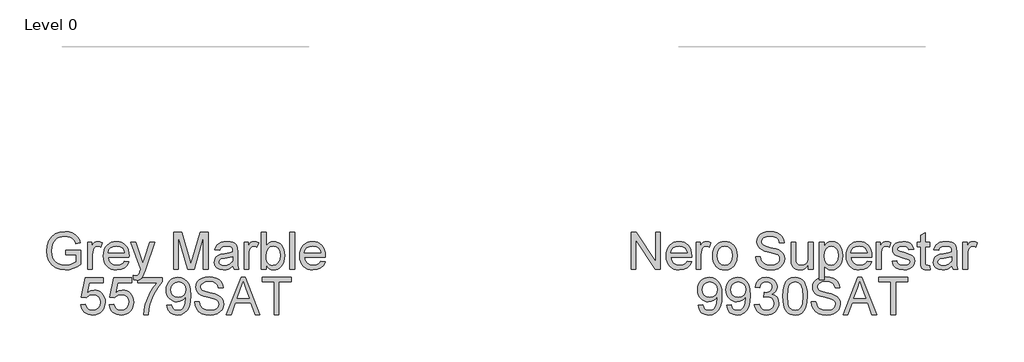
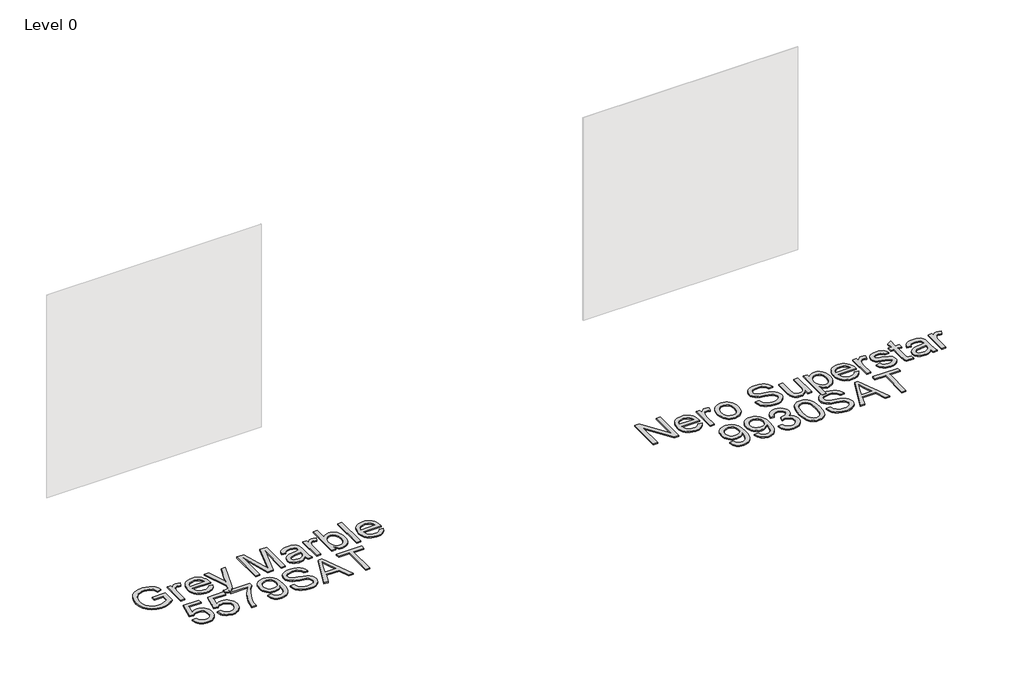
# One storey, part 7 of 9: 2 proxies.
"""IFC4 building model written with IfcOpenShell, lengths in millimetres."""

from ifc_helpers import new_model, si_unit, origin, origin_with_axes, place, context, project, spatial, polyline, outline, extrude, element, save

model = new_model("IFC4")

# Units and contexts
model_context = context("Model", 3, world=origin())
ifc_project = project(units=[si_unit("LENGTHUNIT", "METRE", prefix="MILLI")], contexts=[model_context])

# Site, building, storey
site = spatial("IfcSite", under=ifc_project)
building = spatial("IfcBuilding", under=site)
storey = spatial("IfcBuildingStorey", under=building, Name="Level 0", Elevation=0.0)

# Proxies
placement = place(None, origin())
element("IfcBuildingElementProxy", 1, Name="300mm Arial", ObjectType="300mm Arial", at=placement, inside=storey, context=model_context, shape_type="SweptSolid", body=[
    extrude(outline(polyline([(-420.6893012, -6875.1382555), (-420.6893012, -6837.4671392), (-298.2581732, -6837.4671392), (-298.2581732, -6950.1126061), (-328.0106296, -6970.8059684), (-358.701185, -6985.6500069), (-390.2562631, -6994.5895394), (-422.6022876, -6997.5693835), (-464.8627318, -6992.8329028), (-503.0580799, -6978.6234608), (-534.787902, -6955.437698), (-557.651768, -6923.7722553), (-571.474934, -6885.7884393), (-576.082656, -6843.6475567), (-571.4933281, -6801.2031715), (-557.7253444, -6761.7202364), (-535.348922, -6728.6016598), (-504.9342781, -6705.2503502), (-467.8885612, -6691.399593), (-425.6189199, -6686.782674), (-394.5880736, -6689.4590155), (-366.6842243, -6697.4880401), (-343.1857619, -6710.2903335), (-325.3710762, -6727.2864817), (-312.1917038, -6749.295022), (-302.5991807, -6777.134492), (-337.3272411, -6786.9201531), (-345.0803541, -6767.0637224), (-354.5073303, -6752.0817281), (-366.9785299, -6740.7877509), (-383.8643135, -6731.9953712), (-403.9966557, -6726.3391855), (-426.2075311, -6724.4537903), (-452.2075911, -6726.4863383), (-474.4368607, -6732.5839824), (-492.8125663, -6741.9833674), (-507.2519347, -6753.9211381), (-526.6393158, -6782.9470275), (-535.4684837, -6811.3843058), (-538.4115396, -6842.1024524), (-534.8706754, -6878.1272967), (-524.2480828, -6907.7693885), (-506.8656586, -6930.8171955), (-483.0452994, -6947.0591856), (-455.1690412, -6956.6884968), (-425.6189199, -6959.8982672), (-399.5268894, -6957.4794431), (-374.0786524, -6950.2229707), (-351.9781415, -6940.2257775), (-335.9292895, -6929.5847908), (-335.9292895, -6875.1382555), (-420.6893012, -6875.1382555)])), origin_with_axes(), (0.0, 0.0, 1.0), 10.0),
    extrude(outline(polyline([(-241.7514987, -6992.860494), (-241.7514987, -6771.5426857), (-208.789272, -6771.5426857), (-208.789272, -6804.2841833), (-196.6123779, -6785.3014723), (-185.3919771, -6774.1178596), (-174.134788, -6768.654812), (-161.8475294, -6766.8337961), (-143.0855476, -6769.7400639), (-124.0292603, -6778.4588672), (-136.6108245, -6812.2304343), (-149.8545763, -6806.4362929), (-163.0983282, -6804.5049125), (-174.3463202, -6806.3627165), (-184.3986957, -6811.9361288), (-192.5196907, -6820.8020848), (-197.9735413, -6832.5375205), (-202.5536721, -6853.5803706), (-204.0803824, -6876.5362071), (-204.0803824, -6992.860494), (-241.7514987, -6992.860494)])), origin_with_axes(), (0.0, 0.0, 1.0), 10.0),
    extrude(outline(polyline([(54.4670838, -6926.9360404), (91.4024361, -6931.64493), (78.0943049, -6959.4752029), (56.8583167, -6980.2789297), (28.1727182, -6993.2467701), (-7.4842442, -6997.5693835), (-30.8585465, -6995.7046817), (-51.6852659, -6990.1105761), (-69.9644026, -6980.7870668), (-85.6959564, -6967.7341537), (-98.3464985, -6951.3151204), (-107.3826, -6931.8932503), (-112.8042609, -6909.4685435), (-114.6114812, -6884.0409998), (-112.7858668, -6857.7512327), (-107.3090236, -6834.5792656), (-98.1809516, -6814.5250983), (-85.4016508, -6797.5887309), (-69.7114837, -6784.133447), (-51.8508128, -6774.5225298), (-31.8196382, -6768.7559796), (-9.6179598, -6766.8337961), (11.868648, -6768.751381), (31.2997151, -6774.5041357), (48.6752416, -6784.0920602), (63.9952275, -6797.5151545), (76.500916, -6814.4147337), (85.4335507, -6834.4321128), (90.7931315, -6857.5672917), (92.5796585, -6883.8202706), (92.3589293, -6893.9738137), (-76.9403649, -6893.9738137), (-70.4196565, -6922.1719686), (-55.2721154, -6942.902119), (-33.4107278, -6955.6492302), (-6.7484802, -6959.8982672), (13.3010885, -6957.9300985), (30.1868721, -6952.0255925), (43.9088705, -6941.8168672), (54.4670838, -6926.9360404)]), holes=[polyline([(-76.9403649, -6856.3026974), (54.9085422, -6856.3026974), (49.8133765, -6836.4002814), (39.8253804, -6822.1632482), (17.8628253, -6808.9194964), (-9.7651126, -6804.5049125), (-35.1581673, -6808.0273826), (-56.1550322, -6818.5947929), (-70.7507503, -6835.0667092), (-76.9403649, -6856.3026974)])]), origin_with_axes(), (0.0, 0.0, 1.0), 10.0),
    extrude(outline(polyline([(130.2507748, -7077.6205057), (125.5418852, -7041.3473409), (144.671749, -7044.6582789), (162.550814, -7040.5012124), (173.5136974, -7028.9129295), (183.8143933, -7001.1746271), (186.7574492, -6992.0511536), (106.7063271, -6771.5426857), (146.3640062, -6771.5426857), (188.8911648, -6894.4888485), (203.680021, -6943.637883), (218.4688772, -6900.1542312), (262.0996819, -6771.5426857), (301.4630553, -6771.5426857), (224.4285656, -6998.1579947), (204.415785, -7047.3070293), (194.1702714, -7062.9971964), (182.5635945, -7073.8681093), (169.0991135, -7080.2140737), (153.2801877, -7082.3293952), (130.2507748, -7077.6205057)])), origin_with_axes(), (0.0, 0.0, 1.0), 10.0),
    extrude(outline(polyline([(455.1641529, -6992.860494), (455.1641529, -6691.4915635), (519.7642313, -6691.4915635), (581.5684065, -6903.9066275), (594.0763943, -6948.2731962), (607.5408753, -6900.2278076), (668.1678281, -6691.4915635), (732.9886357, -6691.4915635), (732.9886357, -6992.860494), (695.3175194, -6992.860494), (695.3175194, -6729.1626798), (619.6074048, -6992.860494), (568.6189602, -6992.860494), (492.8352692, -6729.1626798), (492.8352692, -6992.860494), (455.1641529, -6992.860494)])), origin_with_axes(), (0.0, 0.0, 1.0), 10.0),
    extrude(outline(polyline([(935.4708858, -6964.6071568), (917.4722592, -6980.0398064), (898.9402037, -6990.1381672), (879.451655, -6995.7115794), (858.5835488, -6997.5693835), (827.1020471, -6993.0996173), (803.8794962, -6979.6903186), (789.5596895, -6959.3280501), (784.7864206, -6933.9993748), (786.5890424, -6918.3827841), (791.9969077, -6904.2009331), (800.338632, -6892.0608273), (810.9428305, -6882.5694718), (837.3199695, -6870.2086368), (869.9143143, -6864.5432541), (908.4315592, -6858.5835657), (935.2501566, -6851.5938078), (935.4708858, -6843.2060983), (932.8773178, -6826.3938912), (925.0966136, -6815.3942195), (907.6957952, -6807.2272392), (883.4523717, -6804.5049125), (861.01157, -6806.3167313), (845.339797, -6811.7521878), (834.6528251, -6821.8045633), (827.1664265, -6837.4671392), (789.4953101, -6832.7582497), (796.0344126, -6812.156858), (805.7924825, -6795.9700502), (819.6800278, -6783.590821), (838.6075565, -6774.4121652), (861.756531, -6768.7283884), (888.308414, -6766.8337961), (913.7750452, -6768.5076592), (933.9625696, -6773.5292485), (949.1836872, -6781.0800264), (959.7510975, -6790.3414556), (966.7592495, -6801.7917827), (971.3025922, -6815.9092543), (973.1420021, -6848.8714811), (973.1420021, -6895.7396473), (975.0549885, -6961.1858542), (982.5597812, -6992.860494), (944.8886649, -6992.860494), (935.4708858, -6964.6071568)]), holes=[polyline([(935.4708858, -6889.2649241), (874.6967802, -6900.8164188), (842.2863765, -6906.9232599), (827.6078848, -6916.8560738), (822.4575369, -6931.3506244), (825.2626371, -6942.5526311), (833.6779378, -6951.7312869), (847.5194978, -6957.8565221), (866.6033763, -6959.8982672), (886.8368861, -6957.64499), (904.715951, -6950.8851583), (919.2105016, -6940.9247533), (929.2904683, -6929.069756), (933.7602346, -6916.8560738), (935.2501566, -6899.933502), (935.4708858, -6889.2649241)])]), origin_with_axes(), (0.0, 0.0, 1.0), 10.0),
    extrude(outline(polyline([(1024.9397871, -6992.860494), (1024.9397871, -6771.5426857), (1057.9020138, -6771.5426857), (1057.9020138, -6804.2841833), (1070.0789079, -6785.3014723), (1081.2993087, -6774.1178596), (1092.5564978, -6768.654812), (1104.8437564, -6766.8337961), (1123.6057382, -6769.7400639), (1142.6620255, -6778.4588672), (1130.0804613, -6812.2304343), (1116.8367095, -6806.4362929), (1103.5929576, -6804.5049125), (1092.3449656, -6806.3627165), (1082.2925901, -6811.9361288), (1074.1715951, -6820.8020848), (1068.7177445, -6832.5375205), (1064.1376136, -6853.5803706), (1062.6109034, -6876.5362071), (1062.6109034, -6992.860494), (1024.9397871, -6992.860494)])), origin_with_axes(), (0.0, 0.0, 1.0), 10.0),
    extrude(outline(polyline([(1203.8775895, -6992.860494), (1166.2064732, -6992.860494), (1166.2064732, -6691.4915635), (1203.8775895, -6691.4915635), (1203.8775895, -6803.2541137), (1216.2660157, -6787.3202248), (1230.2547286, -6775.9388755), (1245.8437281, -6769.110066), (1263.0330143, -6766.8337961), (1282.4387896, -6768.8847383), (1300.777707, -6775.0375646), (1317.001303, -6784.9059992), (1330.0611139, -6798.1037657), (1340.2974304, -6814.5021057), (1348.0505434, -6833.9722603), (1352.9341769, -6855.7048891), (1354.5620547, -6878.8906519), (1352.8766953, -6905.64487), (1347.8206172, -6929.1801206), (1339.3938202, -6949.4964038), (1327.5963045, -6966.5937195), (1313.4351469, -6980.1455725), (1297.9174245, -6989.8254675), (1281.0431373, -6995.6334045), (1262.8122851, -6997.5693835), (1245.0573803, -6995.0723845), (1229.3166295, -6987.5813874), (1215.5900325, -6975.0963921), (1203.8775895, -6957.6173988), (1203.8775895, -6992.860494)]), holes=[polyline([(1203.8775895, -6880.6564855), (1206.4527635, -6912.0736078), (1214.1782854, -6933.3371872), (1223.3063574, -6944.9576597), (1233.9151544, -6953.2579972), (1246.0046765, -6958.2381997), (1259.5749236, -6959.8982672), (1281.3167495, -6955.0054367), (1299.8947903, -6940.3269451), (1312.6419014, -6915.9547629), (1316.8909384, -6881.9808606), (1312.8166453, -6847.5103177), (1300.593766, -6823.414047), (1282.5951394, -6809.2321961), (1261.1936044, -6804.5049125), (1239.4517784, -6809.397743), (1220.8737377, -6824.0762346), (1208.1266266, -6848.0069584), (1203.8775895, -6880.6564855)])]), origin_with_axes(), (0.0, 0.0, 1.0), 10.0),
    extrude(outline(polyline([(1396.9420606, -6992.860494), (1396.9420606, -6691.4915635), (1434.6131769, -6691.4915635), (1434.6131769, -6992.860494), (1396.9420606, -6992.860494)])), origin_with_axes(), (0.0, 0.0, 1.0), 10.0),
    extrude(outline(polyline([(1646.0717477, -6926.9360404), (1683.0071, -6931.64493), (1669.6989689, -6959.4752029), (1648.4629807, -6980.2789297), (1619.7773821, -6993.2467701), (1584.1204197, -6997.5693835), (1560.7461175, -6995.7046817), (1539.919398, -6990.1105761), (1521.6402614, -6980.7870668), (1505.9087076, -6967.7341537), (1493.2581654, -6951.3151204), (1484.2220639, -6931.8932503), (1478.800403, -6909.4685435), (1476.9931827, -6884.0409998), (1478.8187971, -6857.7512327), (1484.2956403, -6834.5792656), (1493.4237123, -6814.5250983), (1506.2030131, -6797.5887309), (1521.8931802, -6784.133447), (1539.7538511, -6774.5225298), (1559.7850257, -6768.7559796), (1581.9867042, -6766.8337961), (1603.4733119, -6768.751381), (1622.9043791, -6774.5041357), (1640.2799056, -6784.0920602), (1655.5998914, -6797.5151545), (1668.10558, -6814.4147337), (1677.0382147, -6834.4321128), (1682.3977955, -6857.5672917), (1684.1843224, -6883.8202706), (1683.9635932, -6893.9738137), (1514.664299, -6893.9738137), (1521.1850074, -6922.1719686), (1536.3325486, -6942.902119), (1558.1939361, -6955.6492302), (1584.8561837, -6959.8982672), (1604.9057525, -6957.9300985), (1621.791536, -6952.0255925), (1635.5135345, -6941.8168672), (1646.0717477, -6926.9360404)]), holes=[polyline([(1514.664299, -6856.3026974), (1646.5132061, -6856.3026974), (1641.4180405, -6836.4002814), (1631.4300443, -6822.1632482), (1609.4674892, -6808.9194964), (1581.8395514, -6804.5049125), (1556.4464966, -6808.0273826), (1535.4496318, -6818.5947929), (1520.8539136, -6835.0667092), (1514.664299, -6856.3026974)])]), origin_with_axes(), (0.0, 0.0, 1.0), 10.0),
    extrude(outline(polyline([(-298.2581732, -7278.7338254), (-260.5870569, -7274.0249358), (-253.6708754, -7296.6404815), (-241.6043459, -7312.8364863), (-224.4426509, -7322.5761621), (-202.2409725, -7325.8227207), (-175.238434, -7321.3069693), (-155.0049243, -7307.7597148), (-142.3681777, -7286.7444558), (-138.1559289, -7259.8246908), (-142.1014633, -7234.4776213), (-153.9380665, -7215.0902402), (-173.757709, -7202.7845875), (-201.6523613, -7198.6827032), (-219.9268994, -7200.3197781), (-234.7249526, -7205.2310027), (-255.8781674, -7222.2271509), (-293.5492837, -7217.5182614), (-260.5870569, -7062.1249066), (-114.6114812, -7062.1249066), (-114.6114812, -7099.7960229), (-230.1264277, -7099.7960229), (-246.3132355, -7182.790201), (-219.4026675, -7166.4562404), (-191.2045126, -7161.0115869), (-172.8563981, -7162.6992456), (-155.9982057, -7167.7622215), (-140.6299353, -7176.2005148), (-126.751587, -7188.0141254), (-115.2598732, -7202.4810848), (-107.0515062, -7218.8794248), (-102.126486, -7237.2091452), (-100.4848126, -7257.470246), (-106.3893186, -7295.1413624), (-113.7699511, -7311.9351754), (-124.1028367, -7327.3678251), (-139.7562156, -7343.1729553), (-158.0215566, -7354.4623341), (-178.8988599, -7361.2359613), (-202.3881253, -7363.4938371), (-239.3878569, -7357.6904986), (-255.0665277, -7350.4363255), (-268.8644018, -7340.2804832), (-280.3446193, -7327.7288093), (-289.0703204, -7313.2871418), (-298.2581732, -7278.7338254)])), origin_with_axes(), (0.0, 0.0, 1.0), 10.0),
    extrude(outline(polyline([(-67.5225858, -7278.7338254), (-29.8514695, -7274.0249358), (-22.935288, -7296.6404815), (-10.8687586, -7312.8364863), (6.2929365, -7322.5761621), (28.4946149, -7325.8227207), (55.4971534, -7321.3069693), (75.7306631, -7307.7597148), (88.3674096, -7286.7444558), (92.5796585, -7259.8246908), (88.6341241, -7234.4776213), (76.7975209, -7215.0902402), (56.9778784, -7202.7845875), (29.0832261, -7198.6827032), (10.808688, -7200.3197781), (-3.9893653, -7205.2310027), (-25.14258, -7222.2271509), (-62.8136963, -7217.5182614), (-29.8514695, -7062.1249066), (116.1241062, -7062.1249066), (116.1241062, -7099.7960229), (0.6091597, -7099.7960229), (-15.5776481, -7182.790201), (11.3329198, -7166.4562404), (39.5310748, -7161.0115869), (57.8791893, -7162.6992456), (74.7373817, -7167.7622215), (90.1056521, -7176.2005148), (103.9840003, -7188.0141254), (115.4757142, -7202.4810848), (123.6840812, -7218.8794248), (128.6091014, -7237.2091452), (130.2507748, -7257.470246), (124.3462688, -7295.1413624), (116.9656362, -7311.9351754), (106.6327507, -7327.3678251), (90.9793718, -7343.1729553), (72.7140307, -7354.4623341), (51.8367275, -7361.2359613), (28.3474621, -7363.4938371), (-8.6522695, -7357.6904986), (-24.3309403, -7350.4363255), (-38.1288144, -7340.2804832), (-49.6090319, -7327.7288093), (-58.334733, -7313.2871418), (-67.5225858, -7278.7338254)])), origin_with_axes(), (0.0, 0.0, 1.0), 10.0),
    extrude(outline(polyline([(163.2130016, -7099.7960229), (163.2130016, -7062.1249066), (360.9863622, -7062.1249066), (360.9863622, -7092.5855358), (332.7974043, -7128.2608923), (304.8843579, -7173.6299393), (280.2638554, -7224.5540045), (261.9525291, -7276.8944154), (252.9762084, -7316.0554538), (247.9730132, -7358.7849475), (210.3018969, -7358.7849475), (214.37619, -7319.9550029), (225.2746941, -7273.8042066), (242.7031037, -7224.8850983), (266.367113, -7177.7502177), (293.9950508, -7135.1402856), (323.3152459, -7099.7960229), (163.2130016, -7099.7960229)])), origin_with_axes(), (0.0, 0.0, 1.0), 10.0),
    extrude(outline(polyline([(398.6574785, -7283.4427149), (436.3285948, -7278.7338254), (442.7665297, -7300.1169663), (453.2511666, -7314.6758963), (467.524988, -7323.0360146), (485.3304765, -7325.8227207), (501.3057522, -7324.029296), (515.8278939, -7318.6490218), (527.8944234, -7310.2705094), (536.5028621, -7299.4823699), (548.8269089, -7266.7408723), (554.2715624, -7223.0364913), (554.0508332, -7215.6788514), (541.0002195, -7231.6081418), (523.9212978, -7244.2264942), (504.046473, -7252.4486568), (482.6081498, -7255.1893777), (464.71299, -7253.5155146), (448.2571685, -7248.4939254), (433.2406853, -7240.12461), (419.6635404, -7228.4075684), (408.4132491, -7213.9544045), (400.3773268, -7197.3767221), (395.5557734, -7178.6745212), (393.9485889, -7157.8478018), (395.6339483, -7136.326705), (400.6900265, -7117.0129003), (409.1168234, -7099.9063875), (420.9143392, -7085.0071667), (435.2502407, -7072.9360387), (451.2921949, -7064.3138045), (469.0402019, -7059.1404639), (488.4942617, -7057.4160171), (516.5912491, -7061.3523544), (542.1682448, -7073.1613665), (563.5605828, -7092.254442), (579.1035971, -7118.0429699), (588.5673614, -7153.6907352), (591.7219495, -7202.3615232), (588.5765585, -7253.96617), (579.1403853, -7293.8537754), (563.4962035, -7323.8269609), (541.7267864, -7345.6883485), (514.7702332, -7359.0424649), (483.564643, -7363.4938371), (451.3565743, -7358.2423216), (425.6600169, -7342.4877751), (407.6889814, -7317.2234791), (398.6574785, -7283.4427149)]), holes=[polyline([(554.0508332, -7156.964885), (549.9857372, -7131.4338745), (537.790449, -7111.788976), (518.8629204, -7099.262594), (494.6011028, -7095.0871334), (469.4379743, -7099.5844908), (449.278041, -7113.0765629), (436.0342892, -7133.7239399), (431.6197052, -7159.6872117), (435.7951659, -7182.964945), (448.3215478, -7201.4418182), (467.9848405, -7213.4991506), (493.5710332, -7217.5182614), (517.6397128, -7213.4991506), (537.0178969, -7201.4418182), (549.7925991, -7182.2843633), (554.0508332, -7156.964885)])]), origin_with_axes(), (0.0, 0.0, 1.0), 10.0),
    extrude(outline(polyline([(624.6841763, -7255.1893777), (662.3552926, -7255.1893777), (666.6779061, -7276.0942721), (674.4953985, -7292.8972822), (686.6906866, -7306.2330045), (704.1466873, -7316.7360355), (725.483843, -7323.5510494), (749.3225963, -7325.8227207), (770.3102641, -7324.1028724), (788.6859698, -7318.9433274), (803.5759935, -7310.7763471), (814.1066156, -7300.0341929), (820.3698066, -7287.700949), (822.4575369, -7274.7606998), (820.8940384, -7262.1515444), (816.203543, -7251.2530403), (806.6753993, -7241.9548229), (790.5989561, -7234.1465276), (735.7477506, -7219.7623415), (699.7413004, -7210.2433949), (676.7026904, -7201.1843008), (657.9499057, -7188.510766), (644.6601686, -7173.1516928), (636.7415087, -7155.4381747), (634.1019554, -7135.7013056), (637.3669081, -7113.637583), (647.1617662, -7093.0637824), (663.2290123, -7075.6261758), (685.3111291, -7062.9710352), (711.8170269, -7055.2731044), (741.155616, -7052.7071275), (772.9406204, -7055.3926661), (800.7524992, -7063.4492818), (823.5979711, -7076.7114277), (840.4837547, -7095.013557), (851.1707266, -7117.2152354), (855.4197637, -7142.1760288), (817.7486474, -7142.1760288), (810.8324659, -7119.6984389), (796.4114917, -7103.4748429), (773.8787194, -7093.6523936), (742.627144, -7090.3782438), (710.6398045, -7093.6156054), (688.6956435, -7103.3276901), (676.0037146, -7117.6199056), (671.7730717, -7134.5976597), (674.7713099, -7149.0738162), (683.7660247, -7160.7172813), (705.0296041, -7171.1283418), (745.2758943, -7181.7601314), (786.8097716, -7191.8584922), (811.9361118, -7200.669266), (833.4112233, -7214.3360821), (848.3932176, -7231.2034716), (857.1947943, -7251.0874934), (860.1286532, -7273.8042066), (856.7533359, -7297.0267576), (846.627384, -7318.869751), (830.1646647, -7337.668521), (807.7790453, -7351.7584014), (780.8592803, -7360.5599781), (750.7941243, -7363.4938371), (713.8863631, -7360.3300519), (683.5085073, -7350.8386964), (659.3110691, -7334.9829824), (640.9445605, -7312.7261217), (629.1539425, -7285.6132187), (624.6841763, -7255.1893777)])), origin_with_axes(), (0.0, 0.0, 1.0), 10.0),
    extrude(outline(polyline([(881.6129617, -7358.7849475), (1001.9103742, -7057.4160171), (1033.9896841, -7057.4160171), (1154.2135202, -7358.7849475), (1114.4086883, -7358.7849475), (1079.9749335, -7264.6071568), (955.777972, -7264.6071568), (921.3442172, -7358.7849475), (881.6129617, -7358.7849475)]), holes=[polyline([(969.610335, -7226.9360404), (1066.2161469, -7226.9360404), (1038.9928793, -7152.8446066), (1017.8764527, -7095.0871334), (999.114471, -7146.3698835), (969.610335, -7226.9360404)])]), origin_with_axes(), (0.0, 0.0, 1.0), 10.0),
    extrude(outline(polyline([(1269.802043, -7358.7849475), (1269.802043, -7095.0871334), (1170.9153627, -7095.0871334), (1170.9153627, -7057.4160171), (1406.3598397, -7057.4160171), (1406.3598397, -7095.0871334), (1307.4731594, -7095.0871334), (1307.4731594, -7358.7849475), (1269.802043, -7358.7849475)])), origin_with_axes(), (0.0, 0.0, 1.0), 10.0),
])
element("IfcBuildingElementProxy", 2, Name="300mm Arial", ObjectType="300mm Arial", at=placement, inside=storey, context=model_context, shape_type="SweptSolid", body=[
    extrude(outline(polyline([(4164.9284194, -6992.860494), (4164.9284194, -6691.4915635), (4205.2482861, -6691.4915635), (4362.7017801, -6930.2469784), (4362.7017801, -6691.4915635), (4400.3728964, -6691.4915635), (4400.3728964, -6992.860494), (4360.0530297, -6992.860494), (4202.5995357, -6754.0315027), (4202.5995357, -6992.860494), (4164.9284194, -6992.860494)])), origin_with_axes(), (0.0, 0.0, 1.0), 10.0),
    extrude(outline(polyline([(4616.5403567, -6926.9360404), (4653.475709, -6931.64493), (4640.1675779, -6959.4752029), (4618.9315897, -6980.2789297), (4590.2459911, -6993.2467701), (4554.5890287, -6997.5693835), (4531.2147265, -6995.7046817), (4510.388007, -6990.1105761), (4492.1088704, -6980.7870668), (4476.3773166, -6967.7341537), (4463.7267745, -6951.3151204), (4454.6906729, -6931.8932503), (4449.269012, -6909.4685435), (4447.4617917, -6884.0409998), (4449.2874061, -6857.7512327), (4454.7642493, -6834.5792656), (4463.8923213, -6814.5250983), (4476.6716222, -6797.5887309), (4492.3617893, -6784.133447), (4510.2224601, -6774.5225298), (4530.2536348, -6768.7559796), (4552.4553132, -6766.8337961), (4573.9419209, -6768.751381), (4593.3729881, -6774.5041357), (4610.7485146, -6784.0920602), (4626.0685004, -6797.5151545), (4638.574189, -6814.4147337), (4647.5068237, -6834.4321128), (4652.8664045, -6857.5672917), (4654.6529314, -6883.8202706), (4654.4322022, -6893.9738137), (4485.132908, -6893.9738137), (4491.6536164, -6922.1719686), (4506.8011576, -6942.902119), (4528.6625451, -6955.6492302), (4555.3247927, -6959.8982672), (4575.3743615, -6957.9300985), (4592.260145, -6952.0255925), (4605.9821435, -6941.8168672), (4616.5403567, -6926.9360404)]), holes=[polyline([(4485.132908, -6856.3026974), (4616.9818151, -6856.3026974), (4611.8866495, -6836.4002814), (4601.8986533, -6822.1632482), (4579.9360982, -6808.9194964), (4552.3081604, -6804.5049125), (4526.9151056, -6808.0273826), (4505.9182408, -6818.5947929), (4491.3225226, -6835.0667092), (4485.132908, -6856.3026974)])]), origin_with_axes(), (0.0, 0.0, 1.0), 10.0),
    extrude(outline(polyline([(4692.3240477, -6992.860494), (4692.3240477, -6771.5426857), (4725.2862745, -6771.5426857), (4725.2862745, -6804.2841833), (4737.4631685, -6785.3014723), (4748.6835694, -6774.1178596), (4759.9407584, -6768.654812), (4772.2280171, -6766.8337961), (4790.9899988, -6769.7400639), (4810.0462862, -6778.4588672), (4797.464722, -6812.2304343), (4784.2209701, -6806.4362929), (4770.9772183, -6804.5049125), (4759.7292263, -6806.3627165), (4749.6768508, -6811.9361288), (4741.5558557, -6820.8020848), (4736.1020052, -6832.5375205), (4731.5218743, -6853.5803706), (4729.995164, -6876.5362071), (4729.995164, -6992.860494), (4692.3240477, -6992.860494)])), origin_with_axes(), (0.0, 0.0, 1.0), 10.0),
    extrude(outline(polyline([(4824.1729548, -6882.2015898), (4826.2101013, -6853.5389839), (4832.321541, -6828.8403064), (4842.5072737, -6808.1055575), (4856.7672996, -6791.334737), (4871.1238944, -6780.6155754), (4886.9704114, -6772.9590314), (4904.3068504, -6768.3651049), (4923.1332115, -6766.8337961), (4943.916245, -6768.698498), (4962.7081171, -6774.2926036), (4979.508828, -6783.6161129), (4994.3183776, -6796.669026), (5006.4056004, -6813.0098843), (5015.0393309, -6832.1972296), (5020.2195693, -6854.2310619), (5021.9463154, -6879.1113811), (5018.8928948, -6917.1687735), (5009.7326332, -6946.1394806), (4994.7322448, -6967.8353213), (4974.1584442, -6984.0681143), (4949.7218827, -6994.1940662), (4923.1332115, -6997.5693835), (4902.0466754, -6995.7115794), (4883.0800593, -6990.1381672), (4866.2333632, -6980.8491468), (4851.506587, -6967.8445183), (4839.5481229, -6951.3450108), (4831.0063629, -6931.5713536), (4825.8813068, -6908.5235466), (4824.1729548, -6882.2015898)]), holes=[polyline([(4861.8440711, -6882.1280134), (4866.2034727, -6916.2214773), (4879.2816777, -6940.5108861), (4898.9633644, -6955.0514219), (4923.1332115, -6959.8982672), (4947.192694, -6955.0238308), (4966.8375925, -6940.4005215), (4979.9157975, -6915.789216), (4984.2751991, -6880.950791), (4979.8882063, -6847.8506085), (4966.7272279, -6823.8922936), (4947.0547382, -6809.3517577), (4923.1332115, -6804.5049125), (4898.9633644, -6809.3333636), (4879.2816777, -6823.8187172), (4866.2034727, -6848.0529436), (4861.8440711, -6882.1280134)])]), origin_with_axes(), (0.0, 0.0, 1.0), 10.0),
    extrude(outline(polyline([(5172.6307806, -6889.2649241), (5210.3018969, -6889.2649241), (5214.6245104, -6910.1698185), (5222.4420028, -6926.9728286), (5234.6372909, -6940.308551), (5252.0932916, -6950.8115819), (5273.4304473, -6957.6265959), (5297.2692006, -6959.8982672), (5318.2568684, -6958.1784189), (5336.6325741, -6953.0188739), (5351.5225978, -6944.8518936), (5362.0532199, -6934.1097394), (5368.3164109, -6921.7764955), (5370.4041412, -6908.8362463), (5368.8406428, -6896.2270909), (5364.1501473, -6885.3285868), (5354.6220036, -6876.0303694), (5338.5455605, -6868.222074), (5283.694355, -6853.837888), (5247.6879047, -6844.3189414), (5224.6492947, -6835.2598472), (5205.89651, -6822.5863125), (5192.606773, -6807.2272392), (5184.688113, -6789.5137211), (5182.0485597, -6769.7768521), (5185.3135124, -6747.7131294), (5195.1083705, -6727.1393289), (5211.1756167, -6709.7017223), (5233.2577334, -6697.0465817), (5259.7636312, -6689.3486509), (5289.1022203, -6686.782674), (5320.8872247, -6689.4682126), (5348.6991035, -6697.5248283), (5371.5445754, -6710.7869742), (5388.430359, -6729.0891034), (5399.117331, -6751.2907818), (5403.366368, -6776.2515752), (5365.6952517, -6776.2515752), (5358.7790702, -6753.7739853), (5344.358096, -6737.5503893), (5321.8253238, -6727.7279401), (5290.5737483, -6724.4537903), (5258.5864088, -6727.6911519), (5236.6422478, -6737.4032365), (5223.950319, -6751.695452), (5219.719676, -6768.6732061), (5222.7179143, -6783.1493626), (5231.7126291, -6794.7928278), (5252.9762084, -6805.2038882), (5293.2224987, -6815.8356779), (5334.7563759, -6825.9340387), (5359.8827162, -6834.7448125), (5381.3578276, -6848.4116286), (5396.3398219, -6865.2790181), (5405.1413986, -6885.1630399), (5408.0752575, -6907.8797531), (5404.6999402, -6931.102304), (5394.5739883, -6952.9452975), (5378.111269, -6971.7440675), (5355.7256496, -6985.8339479), (5328.8058846, -6994.6355246), (5298.7407286, -6997.5693835), (5261.8329674, -6994.4055984), (5231.4551117, -6984.9142429), (5207.2576734, -6969.0585289), (5188.8911648, -6946.8016682), (5177.1005469, -6919.6887651), (5172.6307806, -6889.2649241)])), origin_with_axes(), (0.0, 0.0, 1.0), 10.0),
    extrude(outline(polyline([(5601.1397286, -6992.860494), (5601.1397286, -6954.8214957), (5587.5097007, -6973.5236966), (5571.6355926, -6986.8824116), (5553.5174043, -6994.8976405), (5533.1551359, -6997.5693835), (5514.8070214, -6995.6931853), (5497.7280998, -6990.0645908), (5483.3990961, -6981.6033049), (5473.3007353, -6971.2290327), (5462.0803344, -6943.4907302), (5459.8730425, -6908.4683643), (5459.8730425, -6771.5426857), (5497.5441588, -6771.5426857), (5497.5441588, -6890.7364521), (5499.8250271, -6929.1433324), (5505.3156659, -6941.9548229), (5514.7242479, -6951.6944987), (5527.4253738, -6957.8473251), (5542.7936442, -6959.8982672), (5559.0448313, -6957.8013398), (5574.2475548, -6951.5105577), (5586.7831338, -6941.605335), (5595.0328875, -6928.6650858), (5599.6130183, -6910.9423707), (5601.1397286, -6886.6897502), (5601.1397286, -6771.5426857), (5638.8108449, -6771.5426857), (5638.8108449, -6992.860494), (5601.1397286, -6992.860494)])), origin_with_axes(), (0.0, 0.0, 1.0), 10.0),
    extrude(outline(polyline([(5690.6086298, -7077.6205057), (5690.6086298, -6771.5426857), (5728.2797461, -6771.5426857), (5728.2797461, -6808.478038), (5740.5670048, -6790.2586822), (5754.3257914, -6777.2448566), (5770.3654464, -6769.4365613), (5789.4953101, -6766.8337961), (5814.9711383, -6770.4758279), (5837.2463931, -6781.4019232), (5855.3829755, -6798.9498943), (5868.4427863, -6822.4575538), (5876.3338551, -6850.2142504), (5878.9642114, -6880.5093327), (5875.9935643, -6912.7265984), (5867.0816229, -6941.5409557), (5852.5134959, -6965.4900735), (5832.5742918, -6983.1116211), (5809.3517408, -6993.9549429), (5784.9335734, -6997.5693835), (5767.6155285, -6995.1505594), (5752.1552876, -6987.894087), (5738.9207329, -6976.9404006), (5728.2797461, -6963.4299344), (5728.2797461, -7077.6205057), (5690.6086298, -7077.6205057)]), holes=[polyline([(5728.2797461, -6883.9674234), (5732.3540392, -6917.7389906), (5744.5769185, -6941.3570147), (5762.6123333, -6955.2629541), (5784.124233, -6959.8982672), (5805.9856206, -6955.0974072), (5824.4808879, -6940.6948271), (5837.0900433, -6916.2122803), (5841.2930951, -6881.1715202), (5837.1912108, -6847.5838941), (5824.8855581, -6823.6347762), (5806.8777344, -6809.2873784), (5785.6693374, -6804.5049125), (5764.3781669, -6809.590881), (5745.6805645, -6824.8487868), (5732.6299507, -6849.8003831), (5728.2797461, -6883.9674234)])]), origin_with_axes(), (0.0, 0.0, 1.0), 10.0),
    extrude(outline(polyline([(6076.2961136, -6926.9360404), (6113.2314659, -6931.64493), (6099.9233347, -6959.4752029), (6078.6873466, -6980.2789297), (6050.001748, -6993.2467701), (6014.3447856, -6997.5693835), (5990.9704833, -6995.7046817), (5970.1437639, -6990.1105761), (5951.8646272, -6980.7870668), (5936.1330734, -6967.7341537), (5923.4825313, -6951.3151204), (5914.4464298, -6931.8932503), (5909.0247689, -6909.4685435), (5907.2175486, -6884.0409998), (5909.043163, -6857.7512327), (5914.5200062, -6834.5792656), (5923.6480782, -6814.5250983), (5936.427379, -6797.5887309), (5952.1175461, -6784.133447), (5969.978217, -6774.5225298), (5990.0093916, -6768.7559796), (6012.21107, -6766.8337961), (6033.6976778, -6768.751381), (6053.1287449, -6774.5041357), (6070.5042714, -6784.0920602), (6085.8242573, -6797.5151545), (6098.3299458, -6814.4147337), (6107.2625805, -6834.4321128), (6112.6221613, -6857.5672917), (6114.4086883, -6883.8202706), (6114.1879591, -6893.9738137), (5944.8886649, -6893.9738137), (5951.4093733, -6922.1719686), (5966.5569144, -6942.902119), (5988.418302, -6955.6492302), (6015.0805496, -6959.8982672), (6035.1301183, -6957.9300985), (6052.0159019, -6952.0255925), (6065.7379003, -6941.8168672), (6076.2961136, -6926.9360404)]), holes=[polyline([(5944.8886649, -6856.3026974), (6076.737572, -6856.3026974), (6071.6424063, -6836.4002814), (6061.6544102, -6822.1632482), (6039.6918551, -6808.9194964), (6012.0639172, -6804.5049125), (5986.6708625, -6808.0273826), (5965.6739976, -6818.5947929), (5951.0782795, -6835.0667092), (5944.8886649, -6856.3026974)])]), origin_with_axes(), (0.0, 0.0, 1.0), 10.0),
    extrude(outline(polyline([(6152.0798046, -6992.860494), (6152.0798046, -6771.5426857), (6185.0420314, -6771.5426857), (6185.0420314, -6804.2841833), (6197.2189254, -6785.3014723), (6208.4393263, -6774.1178596), (6219.6965153, -6768.654812), (6231.9837739, -6766.8337961), (6250.7457557, -6769.7400639), (6269.802043, -6778.4588672), (6257.2204788, -6812.2304343), (6243.976727, -6806.4362929), (6230.7329752, -6804.5049125), (6219.4849832, -6806.3627165), (6209.4326076, -6811.9361288), (6201.3116126, -6820.8020848), (6195.857762, -6832.5375205), (6191.2776312, -6853.5803706), (6189.7509209, -6876.5362071), (6189.7509209, -6992.860494), (6152.0798046, -6992.860494)])), origin_with_axes(), (0.0, 0.0, 1.0), 10.0),
    extrude(outline(polyline([(6279.2198221, -6926.9360404), (6316.8909384, -6922.2271509), (6322.8322327, -6938.3403823), (6334.328545, -6950.1861825), (6351.4534519, -6957.470246), (6374.2805297, -6959.8982672), (6396.831696, -6957.6725811), (6412.68741, -6950.9955229), (6422.0684009, -6941.3202265), (6425.1953978, -6930.0998256), (6422.0500068, -6920.4981055), (6412.6138336, -6913.1772538), (6373.8390713, -6902.4350996), (6317.1116676, -6884.0042116), (6302.7550728, -6874.7427824), (6292.3532094, -6862.4831149), (6286.0348361, -6848.0069584), (6283.9287117, -6832.0960621), (6285.6209688, -6817.5003439), (6290.6977404, -6804.0266659), (6298.6991738, -6792.2084568), (6309.1654165, -6782.5791455), (6333.1145344, -6771.4323211), (6365.5249382, -6766.8337961), (6390.0442732, -6768.6824032), (6411.3630348, -6774.2282242), (6428.5063358, -6782.9286334), (6440.4992888, -6794.2410048), (6448.4455399, -6809.0022698), (6453.448735, -6828.0493601), (6415.7776187, -6832.7582497), (6411.0227439, -6820.9032524), (6401.6141619, -6811.972917), (6387.4599022, -6806.3719136), (6368.4679942, -6804.5049125), (6346.8365328, -6806.2891401), (6332.4155586, -6811.6418232), (6324.3037606, -6819.3673451), (6321.599828, -6828.2700893), (6326.0879883, -6839.2329728), (6340.1410805, -6847.5471059), (6372.5882725, -6855.5669334), (6427.8809364, -6873.2988455), (6442.4858516, -6881.7785255), (6453.5590996, -6893.3852025), (6460.5396605, -6908.1556646), (6462.8665141, -6926.1267001), (6460.1349903, -6944.7047408), (6451.9404189, -6962.1791356), (6438.5954995, -6977.1795239), (6420.4129319, -6988.3355454), (6398.4503768, -6995.260924), (6373.7654949, -6997.5693835), (6335.7816789, -6993.1180114), (6308.0617705, -6979.763895), (6289.5573062, -6957.654187), (6279.2198221, -6926.9360404)])), origin_with_axes(), (0.0, 0.0, 1.0), 10.0),
    extrude(outline(polyline([(6585.2976421, -6961.4433716), (6590.0065316, -6993.96414), (6561.8267708, -6997.5693835), (6543.7453708, -6996.005885), (6530.2624956, -6991.3153896), (6520.734352, -6984.0865084), (6514.5171462, -6974.9078526), (6511.0958437, -6959.1441091), (6509.9554095, -6932.1599648), (6509.9554095, -6809.213802), (6481.7020723, -6809.213802), (6481.7020723, -6771.5426857), (6509.9554095, -6771.5426857), (6509.9554095, -6717.758338), (6547.6265258, -6695.6118419), (6547.6265258, -6771.5426857), (6585.2976421, -6771.5426857), (6585.2976421, -6809.213802), (6547.6265258, -6809.213802), (6547.6265258, -6931.0563188), (6549.6130886, -6950.4804881), (6556.0510235, -6957.3598814), (6568.8901051, -6959.8982672), (6585.2976421, -6961.4433716)])), origin_with_axes(), (0.0, 0.0, 1.0), 10.0),
    extrude(outline(polyline([(6764.2354446, -6964.6071568), (6746.236818, -6980.0398064), (6727.7047624, -6990.1381672), (6708.2162137, -6995.7115794), (6687.3481076, -6997.5693835), (6655.8666058, -6993.0996173), (6632.6440549, -6979.6903186), (6618.3242482, -6959.3280501), (6613.5509793, -6933.9993748), (6615.3536011, -6918.3827841), (6620.7614664, -6904.2009331), (6629.1031907, -6892.0608273), (6639.7073892, -6882.5694718), (6666.0845283, -6870.2086368), (6698.678873, -6864.5432541), (6737.1961179, -6858.5835657), (6764.0147154, -6851.5938078), (6764.2354446, -6843.2060983), (6761.6418765, -6826.3938912), (6753.8611723, -6815.3942195), (6736.4603539, -6807.2272392), (6712.2169304, -6804.5049125), (6689.7761287, -6806.3167313), (6674.1043557, -6811.7521878), (6663.4173838, -6821.8045633), (6655.9309852, -6837.4671392), (6618.2598689, -6832.7582497), (6624.7989713, -6812.156858), (6634.5570413, -6795.9700502), (6648.4445866, -6783.590821), (6667.3721152, -6774.4121652), (6690.5210898, -6768.7283884), (6717.0729728, -6766.8337961), (6742.5396039, -6768.5076592), (6762.7271284, -6773.5292485), (6777.9482459, -6781.0800264), (6788.5156562, -6790.3414556), (6795.5238083, -6801.7917827), (6800.0671509, -6815.9092543), (6801.9065609, -6848.8714811), (6801.9065609, -6895.7396473), (6803.8195472, -6961.1858542), (6811.3243399, -6992.860494), (6773.6532236, -6992.860494), (6764.2354446, -6964.6071568)]), holes=[polyline([(6764.2354446, -6889.2649241), (6703.461339, -6900.8164188), (6671.0509352, -6906.9232599), (6656.3724436, -6916.8560738), (6651.2220956, -6931.3506244), (6654.0271959, -6942.5526311), (6662.4424965, -6951.7312869), (6676.2840566, -6957.8565221), (6695.3679351, -6959.8982672), (6715.6014448, -6957.64499), (6733.4805098, -6950.8851583), (6747.9750604, -6940.9247533), (6758.055027, -6929.069756), (6762.5247933, -6916.8560738), (6764.0147154, -6899.933502), (6764.2354446, -6889.2649241)])]), origin_with_axes(), (0.0, 0.0, 1.0), 10.0),
    extrude(outline(polyline([(6853.7043458, -6992.860494), (6853.7043458, -6771.5426857), (6886.6665726, -6771.5426857), (6886.6665726, -6804.2841833), (6898.8434666, -6785.3014723), (6910.0638675, -6774.1178596), (6921.3210565, -6768.654812), (6933.6083151, -6766.8337961), (6952.3702969, -6769.7400639), (6971.4265842, -6778.4588672), (6958.84502, -6812.2304343), (6945.6012682, -6806.4362929), (6932.3575164, -6804.5049125), (6921.1095244, -6806.3627165), (6911.0571488, -6811.9361288), (6902.9361538, -6820.8020848), (6897.4823032, -6832.5375205), (6892.9021724, -6853.5803706), (6891.3754621, -6876.5362071), (6891.3754621, -6992.860494), (6853.7043458, -6992.860494)])), origin_with_axes(), (0.0, 0.0, 1.0), 10.0),
    extrude(outline(polyline([(4706.4507163, -7283.4427149), (4744.1218326, -7278.7338254), (4750.5597676, -7300.1169663), (4761.0444044, -7314.6758963), (4775.3182258, -7323.0360146), (4793.1237144, -7325.8227207), (4809.09899, -7324.029296), (4823.6211318, -7318.6490218), (4835.6876612, -7310.2705094), (4844.2960999, -7299.4823699), (4856.6201468, -7266.7408723), (4862.0648003, -7223.0364913), (4861.8440711, -7215.6788514), (4848.7934573, -7231.6081418), (4831.7145357, -7244.2264942), (4811.8397109, -7252.4486568), (4790.4013876, -7255.1893777), (4772.5062278, -7253.5155146), (4756.0504063, -7248.4939254), (4741.0339232, -7240.12461), (4727.4567783, -7228.4075684), (4716.206487, -7213.9544045), (4708.1705647, -7197.3767221), (4703.3490113, -7178.6745212), (4701.7418268, -7157.8478018), (4703.4271862, -7136.326705), (4708.4832644, -7117.0129003), (4716.9100613, -7099.9063875), (4728.7075771, -7085.0071667), (4743.0434786, -7072.9360387), (4759.0854328, -7064.3138045), (4776.8334398, -7059.1404639), (4796.2874996, -7057.4160171), (4824.3844869, -7061.3523544), (4849.9614827, -7073.1613665), (4871.3538207, -7092.254442), (4886.896835, -7118.0429699), (4896.3605993, -7153.6907352), (4899.5151874, -7202.3615232), (4896.3697964, -7253.96617), (4886.9336232, -7293.8537754), (4871.2894413, -7323.8269609), (4849.5200243, -7345.6883485), (4822.5634711, -7359.0424649), (4791.3578808, -7363.4938371), (4759.1498122, -7358.2423216), (4733.4532548, -7342.4877751), (4715.4822193, -7317.2234791), (4706.4507163, -7283.4427149)]), holes=[polyline([(4861.8440711, -7156.964885), (4857.7789751, -7131.4338745), (4845.5836869, -7111.788976), (4826.6561583, -7099.262594), (4802.3943407, -7095.0871334), (4777.2312122, -7099.5844908), (4757.0712789, -7113.0765629), (4743.8275271, -7133.7239399), (4739.4129431, -7159.6872117), (4743.5884038, -7182.964945), (4756.1147857, -7201.4418182), (4775.7780783, -7213.4991506), (4801.3642711, -7217.5182614), (4825.4329506, -7213.4991506), (4844.8111347, -7201.4418182), (4857.585837, -7182.2843633), (4861.8440711, -7156.964885)])]), origin_with_axes(), (0.0, 0.0, 1.0), 10.0),
    extrude(outline(polyline([(4937.1863037, -7283.4427149), (4974.85742, -7278.7338254), (4981.2953549, -7300.1169663), (4991.7799918, -7314.6758963), (5006.0538132, -7323.0360146), (5023.8593018, -7325.8227207), (5039.8345774, -7324.029296), (5054.3567192, -7318.6490218), (5066.4232486, -7310.2705094), (5075.0316873, -7299.4823699), (5087.3557341, -7266.7408723), (5092.8003877, -7223.0364913), (5092.5796585, -7215.6788514), (5079.5290447, -7231.6081418), (5062.4501231, -7244.2264942), (5042.5752983, -7252.4486568), (5021.136975, -7255.1893777), (5003.2418152, -7253.5155146), (4986.7859937, -7248.4939254), (4971.7695105, -7240.12461), (4958.1923656, -7228.4075684), (4946.9420744, -7213.9544045), (4938.906152, -7197.3767221), (4934.0845986, -7178.6745212), (4932.4774142, -7157.8478018), (4934.1627736, -7136.326705), (4939.2188517, -7117.0129003), (4947.6456487, -7099.9063875), (4959.4431644, -7085.0071667), (4973.7790659, -7072.9360387), (4989.8210202, -7064.3138045), (5007.5690272, -7059.1404639), (5027.0230869, -7057.4160171), (5055.1200743, -7061.3523544), (5080.69707, -7073.1613665), (5102.0894081, -7092.254442), (5117.6324224, -7118.0429699), (5127.0961867, -7153.6907352), (5130.2507748, -7202.3615232), (5127.1053837, -7253.96617), (5117.6692106, -7293.8537754), (5102.0250287, -7323.8269609), (5080.2556116, -7345.6883485), (5053.2990584, -7359.0424649), (5022.0934682, -7363.4938371), (4989.8853995, -7358.2423216), (4964.1888422, -7342.4877751), (4946.2178067, -7317.2234791), (4937.1863037, -7283.4427149)]), holes=[polyline([(5092.5796585, -7156.964885), (5088.5145624, -7131.4338745), (5076.3192743, -7111.788976), (5057.3917456, -7099.262594), (5033.1299281, -7095.0871334), (5007.9667996, -7099.5844908), (4987.8068663, -7113.0765629), (4974.5631144, -7133.7239399), (4970.1485305, -7159.6872117), (4974.3239911, -7182.964945), (4986.8503731, -7201.4418182), (5006.5136657, -7213.4991506), (5032.0998585, -7217.5182614), (5056.168538, -7213.4991506), (5075.5467221, -7201.4418182), (5088.3214244, -7182.2843633), (5092.5796585, -7156.964885)])]), origin_with_axes(), (0.0, 0.0, 1.0), 10.0),
    extrude(outline(polyline([(5163.2130016, -7278.7338254), (5200.8841179, -7274.0249358), (5209.3178126, -7297.6981422), (5221.6694506, -7313.6826149), (5238.5460371, -7322.7876943), (5260.5545775, -7325.8227207), (5286.3798935, -7321.6472601), (5306.3190977, -7309.1208782), (5319.0662088, -7290.4324728), (5323.3152459, -7267.7709419), (5319.102997, -7246.2590422), (5306.4662505, -7228.8122386), (5287.3363867, -7217.2515469), (5263.6447862, -7213.397983), (5237.230859, -7217.5182614), (5241.4247137, -7179.8471451), (5247.4579785, -7180.2886035), (5270.0275389, -7177.5846708), (5290.2058663, -7169.4728728), (5304.4428995, -7155.7508744), (5309.1885772, -7136.2163404), (5305.7488806, -7119.9467592), (5295.4297906, -7106.7489926), (5279.6844412, -7098.0025982), (5259.9659663, -7095.0871334), (5240.2107031, -7098.0301893), (5224.0606836, -7106.8593572), (5212.2700656, -7121.574637), (5205.5930074, -7142.1760288), (5167.9218911, -7137.4671392), (5179.0135332, -7103.6403898), (5198.7504023, -7078.3852908), (5225.7529407, -7062.6583355), (5258.6415911, -7057.4160171), (5282.3239945, -7060.0003881), (5304.0750175, -7067.7535011), (5322.413935, -7079.9855775), (5335.8600219, -7096.0068384), (5344.1097756, -7114.4653175), (5346.8596935, -7134.0090485), (5344.2477314, -7152.2192072), (5336.4118449, -7168.7371088), (5323.4623987, -7182.8085951), (5305.5097573, -7193.6795081), (5329.0909932, -7203.2076518), (5346.565388, -7219.4312477), (5357.3811186, -7241.4673793), (5360.9863622, -7268.4331295), (5359.1837404, -7287.5445992), (5353.7758751, -7305.1477526), (5344.7627662, -7321.2425899), (5332.1444137, -7335.829111), (5316.7715449, -7347.9324287), (5299.4948867, -7356.5776555), (5280.3144391, -7361.7647917), (5259.2302023, -7363.4938371), (5240.1739149, -7362.0177105), (5222.8098848, -7357.589331), (5207.1381118, -7350.2086985), (5193.158596, -7339.875813), (5181.4369559, -7327.1976797), (5172.5388101, -7312.781304), (5166.4641587, -7296.6266859), (5163.2130016, -7278.7338254)])), origin_with_axes(), (0.0, 0.0, 1.0), 10.0),
    extrude(outline(polyline([(5393.9485889, -7210.5285035), (5396.7169009, -7162.2899768), (5405.021837, -7123.8187172), (5418.7806236, -7094.5261133), (5437.9104874, -7073.8235541), (5462.549384, -7061.5179013), (5492.8352692, -7057.4160171), (5516.0486231, -7059.8440382), (5536.8339559, -7067.1281017), (5554.2163801, -7078.983099), (5567.2210087, -7095.1239216), (5577.0434579, -7115.4126136), (5584.8793444, -7139.7112194), (5590.0112983, -7170.5673217), (5591.7219495, -7210.5285035), (5588.9812287, -7258.4911186), (5580.7590661, -7296.8704077), (5567.0830529, -7326.1906027), (5547.9807803, -7346.9759355), (5523.2867014, -7359.3643617), (5492.8352692, -7363.4938371), (5472.0867247, -7361.7004123), (5453.6926249, -7356.3201381), (5437.65297, -7347.3530145), (5423.9677597, -7334.7990414), (5410.8343725, -7312.1053209), (5401.4533816, -7283.828991), (5395.8247871, -7249.9700519), (5393.9485889, -7210.5285035)]), holes=[polyline([(5431.6197052, -7210.4549271), (5436.0342892, -7269.7115194), (5441.5525191, -7289.9795181), (5449.278041, -7304.0073184), (5468.9965159, -7320.3688702), (5492.8352692, -7325.8227207), (5516.6740225, -7320.3504761), (5536.3924975, -7303.933742), (5544.1180194, -7289.8829491), (5549.6362493, -7269.6195489), (5554.0508332, -7210.4549271), (5549.7834021, -7152.5319069), (5544.4491132, -7132.3305869), (5536.9811087, -7117.9693935), (5517.2994219, -7100.8076984), (5492.3938108, -7095.0871334), (5468.8125749, -7100.1271167), (5449.8666522, -7115.2470667), (5441.8836129, -7130.8820515), (5436.181442, -7151.9616898), (5431.6197052, -7210.4549271)])]), origin_with_axes(), (0.0, 0.0, 1.0), 10.0),
    extrude(outline(polyline([(5624.6841763, -7255.1893777), (5662.3552926, -7255.1893777), (5666.6779061, -7276.0942721), (5674.4953985, -7292.8972822), (5686.6906866, -7306.2330045), (5704.1466873, -7316.7360355), (5725.483843, -7323.5510494), (5749.3225963, -7325.8227207), (5770.3102641, -7324.1028724), (5788.6859698, -7318.9433274), (5803.5759935, -7310.7763471), (5814.1066156, -7300.0341929), (5820.3698066, -7287.700949), (5822.4575369, -7274.7606998), (5820.8940384, -7262.1515444), (5816.203543, -7251.2530403), (5806.6753993, -7241.9548229), (5790.5989561, -7234.1465276), (5735.7477506, -7219.7623415), (5699.7413004, -7210.2433949), (5676.7026904, -7201.1843008), (5657.9499057, -7188.510766), (5644.6601686, -7173.1516928), (5636.7415087, -7155.4381747), (5634.1019554, -7135.7013056), (5637.3669081, -7113.637583), (5647.1617662, -7093.0637824), (5663.2290123, -7075.6261758), (5685.3111291, -7062.9710352), (5711.8170269, -7055.2731044), (5741.155616, -7052.7071275), (5772.9406204, -7055.3926661), (5800.7524992, -7063.4492818), (5823.5979711, -7076.7114277), (5840.4837547, -7095.013557), (5851.1707266, -7117.2152354), (5855.4197637, -7142.1760288), (5817.7486474, -7142.1760288), (5810.8324659, -7119.6984389), (5796.4114917, -7103.4748429), (5773.8787194, -7093.6523936), (5742.627144, -7090.3782438), (5710.6398045, -7093.6156054), (5688.6956435, -7103.3276901), (5676.0037146, -7117.6199056), (5671.7730717, -7134.5976597), (5674.7713099, -7149.0738162), (5683.7660247, -7160.7172813), (5705.0296041, -7171.1283418), (5745.2758943, -7181.7601314), (5786.8097716, -7191.8584922), (5811.9361118, -7200.669266), (5833.4112233, -7214.3360821), (5848.3932176, -7231.2034716), (5857.1947943, -7251.0874934), (5860.1286532, -7273.8042066), (5856.7533359, -7297.0267576), (5846.627384, -7318.869751), (5830.1646647, -7337.668521), (5807.7790453, -7351.7584014), (5780.8592803, -7360.5599781), (5750.7941243, -7363.4938371), (5713.8863631, -7360.3300519), (5683.5085073, -7350.8386964), (5659.3110691, -7334.9829824), (5640.9445605, -7312.7261217), (5629.1539425, -7285.6132187), (5624.6841763, -7255.1893777)])), origin_with_axes(), (0.0, 0.0, 1.0), 10.0),
    extrude(outline(polyline([(5881.6129617, -7358.7849475), (6001.9103742, -7057.4160171), (6033.9896841, -7057.4160171), (6154.2135202, -7358.7849475), (6114.4086883, -7358.7849475), (6079.9749335, -7264.6071568), (5955.777972, -7264.6071568), (5921.3442172, -7358.7849475), (5881.6129617, -7358.7849475)]), holes=[polyline([(5969.610335, -7226.9360404), (6066.2161469, -7226.9360404), (6038.9928793, -7152.8446066), (6017.8764527, -7095.0871334), (5999.114471, -7146.3698835), (5969.610335, -7226.9360404)])]), origin_with_axes(), (0.0, 0.0, 1.0), 10.0),
    extrude(outline(polyline([(6269.802043, -7358.7849475), (6269.802043, -7095.0871334), (6170.9153627, -7095.0871334), (6170.9153627, -7057.4160171), (6406.3598397, -7057.4160171), (6406.3598397, -7095.0871334), (6307.4731594, -7095.0871334), (6307.4731594, -7358.7849475), (6269.802043, -7358.7849475)])), origin_with_axes(), (0.0, 0.0, 1.0), 10.0),
])

save(model, "model.ifc")
